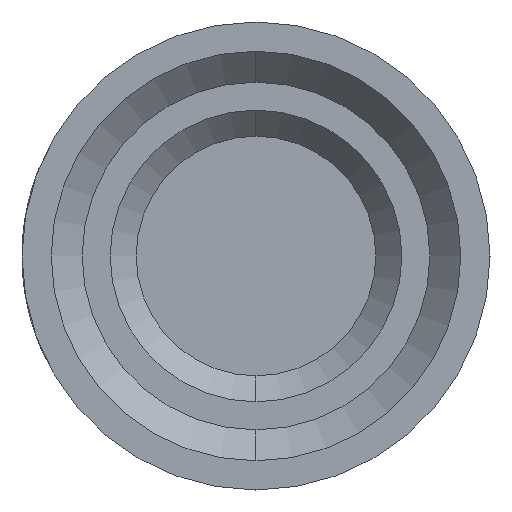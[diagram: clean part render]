
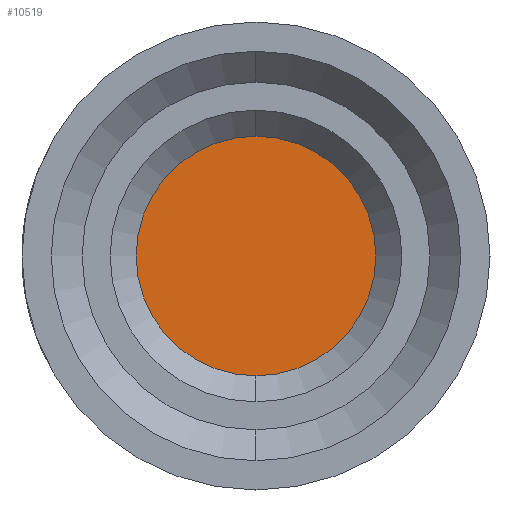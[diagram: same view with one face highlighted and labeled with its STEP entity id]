
A CAD part, left-side view. The second image highlights one B-rep face of the part: STEP entity #10519.
In plain terms, the highlighted planar face has unit normal (-1, 0, 0).
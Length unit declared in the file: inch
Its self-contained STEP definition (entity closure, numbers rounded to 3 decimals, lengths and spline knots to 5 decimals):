
#1046 = CARTESIAN_POINT ( 'NONE',  ( -0.65, 0., 0.048 ) ) ;
#1638 = CIRCLE ( 'NONE', #14913, 0.048 ) ;
#1743 = AXIS2_PLACEMENT_3D ( 'NONE', #3678, #8106, #11913 ) ;
#2398 = CARTESIAN_POINT ( 'NONE',  ( -0.65, 0., -0.048 ) ) ;
#3446 = VERTEX_POINT ( 'NONE', #1046 ) ;
#3602 = CARTESIAN_POINT ( 'NONE',  ( -0.65, 0., 0. ) ) ;
#3678 = CARTESIAN_POINT ( 'NONE',  ( -0.65, 0.048, 0. ) ) ;
#4904 = EDGE_CURVE ( 'NONE', #15262, #3446, #1638, .T. ) ;
#5785 = DIRECTION ( 'NONE',  ( -1., 0., 0. ) ) ;
#6703 = EDGE_CURVE ( 'NONE', #3446, #15262, #15496, .T. ) ;
#7338 = CARTESIAN_POINT ( 'NONE',  ( -0.65, 0., 0. ) ) ;
#7670 = AXIS2_PLACEMENT_3D ( 'NONE', #7338, #5785, #14152 ) ;
#7868 = ORIENTED_EDGE ( 'NONE', *, *, #6703, .T. ) ;
#8106 = DIRECTION ( 'NONE',  ( 1., 0., 0. ) ) ;
#9205 = DIRECTION ( 'NONE',  ( -1., 0., 0. ) ) ;
#10519 = ADVANCED_FACE ( 'NONE', ( #13264 ), #17718, .F. ) ;
#11306 = ORIENTED_EDGE ( 'NONE', *, *, #4904, .T. ) ;
#11486 = EDGE_LOOP ( 'NONE', ( #7868, #11306 ) ) ;
#11913 = DIRECTION ( 'NONE',  ( 0., 0., -1. ) ) ;
#13264 = FACE_OUTER_BOUND ( 'NONE', #11486, .T. ) ;
#14152 = DIRECTION ( 'NONE',  ( 0., 0., 1. ) ) ;
#14913 = AXIS2_PLACEMENT_3D ( 'NONE', #3602, #9205, #17205 ) ;
#15262 = VERTEX_POINT ( 'NONE', #2398 ) ;
#15496 = CIRCLE ( 'NONE', #7670, 0.048 ) ;
#17205 = DIRECTION ( 'NONE',  ( 0., 0., 1. ) ) ;
#17718 = PLANE ( 'NONE',  #1743 ) ;
